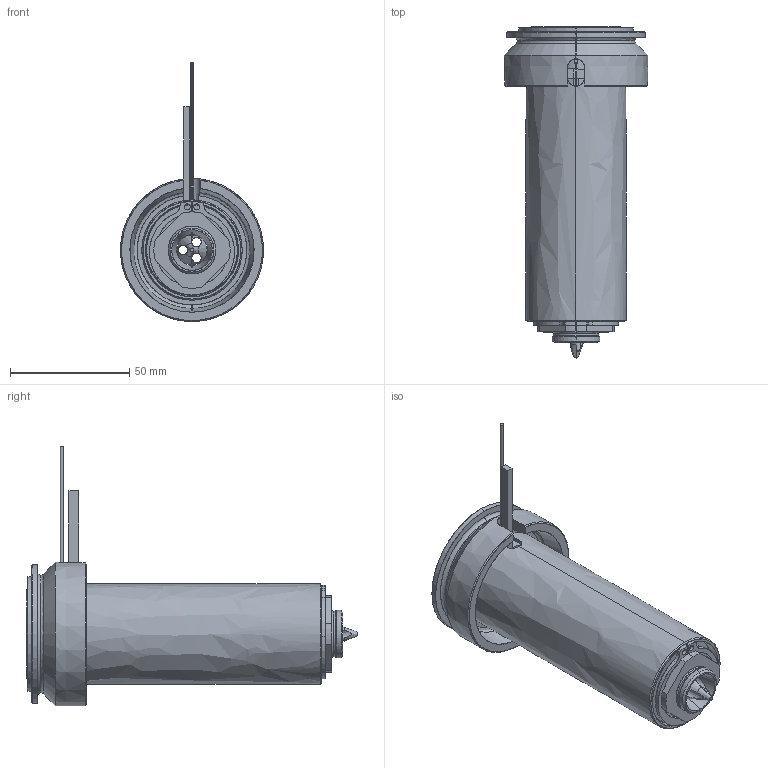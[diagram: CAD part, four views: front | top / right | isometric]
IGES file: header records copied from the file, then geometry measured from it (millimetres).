
Start section: SolidWorks IGES file using analytic representation for surfaces
Global section: file name: C:\Documents and Settings\ws-20\Desktop\TEM\UGEP6005-M-A-0 [Øf-1.6 ØC-15].IGS; native system: SolidWorks 2012; preprocessor: SolidWorks 2012; author: ws-20; date: 120427.092822; units: millimetre
Bounding box: 60 x 139.05 x 108.65 mm (x, y, z)
Surface area: 71560.4 mm2 (no closed solid volume)
Topology: 0 solids, 0 shells, 130 faces, 2306 edges, 2306 vertices
Faces by surface type: revolution 81, bspline 49
